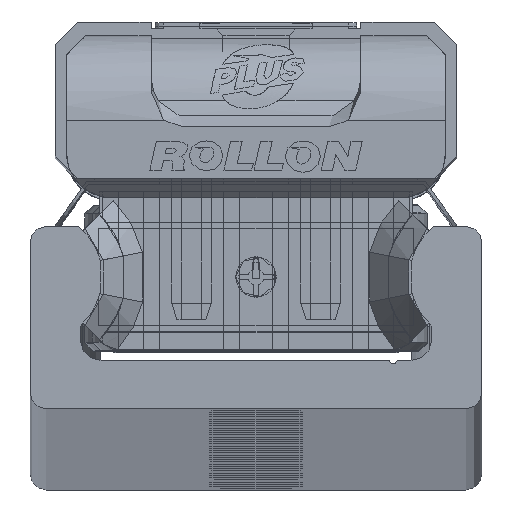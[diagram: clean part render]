
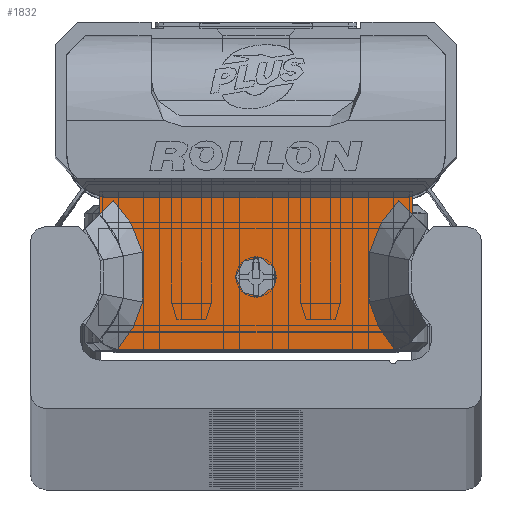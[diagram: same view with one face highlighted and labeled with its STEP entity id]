
A CAD part, top view. The second image highlights one B-rep face of the part: STEP entity #1832.
In plain terms, the highlighted planar face has unit normal (0, 0, 1) as drawn and (0, 0, -1) by its records, which use the part's own axes.
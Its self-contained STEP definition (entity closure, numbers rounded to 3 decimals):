
#1832 = ADVANCED_FACE( '', ( #4021, #4022 ), #4023, .F. );
#4021 = FACE_BOUND( '', #6541, .T. );
#4022 = FACE_OUTER_BOUND( '', #6542, .T. );
#4023 = PLANE( '', #6543 );
#6541 = EDGE_LOOP( '', ( #11531 ) );
#6542 = EDGE_LOOP( '', ( #11532, #11533, #11534, #11535, #11536, #11537, #11538, #11539, #11540, #11541, #11542, #11543, #11544, #11545 ) );
#6543 = AXIS2_PLACEMENT_3D( '', #11546, #11547, #11548 );
#11531 = ORIENTED_EDGE( '', *, *, #15198, .T. );
#11532 = ORIENTED_EDGE( '', *, *, #13640, .F. );
#11533 = ORIENTED_EDGE( '', *, *, #15199, .T. );
#11534 = ORIENTED_EDGE( '', *, *, #14023, .T. );
#11535 = ORIENTED_EDGE( '', *, *, #15200, .T. );
#11536 = ORIENTED_EDGE( '', *, *, #13447, .T. );
#11537 = ORIENTED_EDGE( '', *, *, #15076, .T. );
#11538 = ORIENTED_EDGE( '', *, *, #13209, .T. );
#11539 = ORIENTED_EDGE( '', *, *, #15110, .T. );
#11540 = ORIENTED_EDGE( '', *, *, #15201, .T. );
#11541 = ORIENTED_EDGE( '', *, *, #14173, .T. );
#11542 = ORIENTED_EDGE( '', *, *, #13949, .T. );
#11543 = ORIENTED_EDGE( '', *, *, #14848, .T. );
#11544 = ORIENTED_EDGE( '', *, *, #14025, .T. );
#11545 = ORIENTED_EDGE( '', *, *, #14010, .T. );
#11546 = CARTESIAN_POINT( '', ( 9.7, 4.89, -10.6 ) );
#11547 = DIRECTION( '', ( 0., 0., 1. ) );
#11548 = DIRECTION( '', ( 1., 0., 0. ) );
#13209 = EDGE_CURVE( '', #15522, #15523, #15524, .T. );
#13447 = EDGE_CURVE( '', #15959, #15960, #15961, .T. );
#13640 = EDGE_CURVE( '', #16315, #16317, #16318, .T. );
#13949 = EDGE_CURVE( '', #16658, #16824, #16826, .T. );
#14010 = EDGE_CURVE( '', #16925, #16317, #16926, .T. );
#14023 = EDGE_CURVE( '', #16939, #16943, #16945, .T. );
#14025 = EDGE_CURVE( '', #16947, #16925, #16948, .T. );
#14173 = EDGE_CURVE( '', #17166, #16658, #17179, .T. );
#14848 = EDGE_CURVE( '', #16824, #16947, #18163, .T. );
#15076 = EDGE_CURVE( '', #15960, #15522, #18463, .T. );
#15110 = EDGE_CURVE( '', #15523, #18502, #18504, .T. );
#15198 = EDGE_CURVE( '', #18609, #18609, #18610, .T. );
#15199 = EDGE_CURVE( '', #16315, #16939, #18611, .T. );
#15200 = EDGE_CURVE( '', #16943, #15959, #18612, .T. );
#15201 = EDGE_CURVE( '', #18502, #17166, #18613, .T. );
#15522 = VERTEX_POINT( '', #18968 );
#15523 = VERTEX_POINT( '', #18969 );
#15524 = B_SPLINE_CURVE_WITH_KNOTS( '', 2, ( #18970, #18971, #18972, #18973, #18974 ), .UNSPECIFIED., .F., .F., ( 3, 2, 3 ), ( 0., 0.5, 1. ), .UNSPECIFIED. );
#15959 = VERTEX_POINT( '', #19608 );
#15960 = VERTEX_POINT( '', #19609 );
#15961 = LINE( '', #19610, #19611 );
#16315 = VERTEX_POINT( '', #20146 );
#16317 = VERTEX_POINT( '', #20149 );
#16318 = LINE( '', #20150, #20151 );
#16658 = VERTEX_POINT( '', #20692 );
#16824 = VERTEX_POINT( '', #20928 );
#16826 = B_SPLINE_CURVE_WITH_KNOTS( '', 2, ( #20931, #20932, #20933 ), .UNSPECIFIED., .F., .F., ( 3, 3 ), ( 0.1, 1. ), .UNSPECIFIED. );
#16925 = VERTEX_POINT( '', #21055 );
#16926 = LINE( '', #21056, #21057 );
#16939 = VERTEX_POINT( '', #21075 );
#16943 = VERTEX_POINT( '', #21081 );
#16945 = LINE( '', #21084, #21085 );
#16947 = VERTEX_POINT( '', #21087 );
#16948 = B_SPLINE_CURVE_WITH_KNOTS( '', 2, ( #21088, #21089, #21090 ), .UNSPECIFIED., .F., .F., ( 3, 3 ), ( 0., 1. ), .UNSPECIFIED. );
#17166 = VERTEX_POINT( '', #21438 );
#17179 = LINE( '', #21457, #21458 );
#18163 = B_SPLINE_CURVE_WITH_KNOTS( '', 2, ( #22764, #22765, #22766 ), .UNSPECIFIED., .F., .F., ( 3, 3 ), ( 0., 1. ), .UNSPECIFIED. );
#18463 = LINE( '', #23172, #23173 );
#18502 = VERTEX_POINT( '', #23221 );
#18504 = B_SPLINE_CURVE_WITH_KNOTS( '', 2, ( #23224, #23225, #23226 ), .UNSPECIFIED., .F., .F., ( 3, 3 ), ( 0., 1. ), .UNSPECIFIED. );
#18609 = VERTEX_POINT( '', #23375 );
#18610 = CIRCLE( '', #23376, 1.25 );
#18611 = CIRCLE( '', #23377, 2.8 );
#18612 = CIRCLE( '', #23378, 2.8 );
#18613 = B_SPLINE_CURVE_WITH_KNOTS( '', 2, ( #23379, #23380, #23381 ), .UNSPECIFIED., .F., .F., ( 3, 3 ), ( 0., 1. ), .UNSPECIFIED. );
#18968 = CARTESIAN_POINT( '', ( 8.853, 4.366, -10.6 ) );
#18969 = CARTESIAN_POINT( '', ( 7.031, 1.144, -10.6 ) );
#18970 = CARTESIAN_POINT( '', ( 8.853, 4.366, -10.6 ) );
#18971 = CARTESIAN_POINT( '', ( 8.182, 3.708, -10.6 ) );
#18972 = CARTESIAN_POINT( '', ( 7.715, 2.883, -10.6 ) );
#18973 = CARTESIAN_POINT( '', ( 7.249, 2.058, -10.6 ) );
#18974 = CARTESIAN_POINT( '', ( 7.031, 1.144, -10.6 ) );
#19608 = CARTESIAN_POINT( '', ( 9.7, 4.612, -10.6 ) );
#19609 = CARTESIAN_POINT( '', ( 9.7, 3.497, -10.6 ) );
#19610 = CARTESIAN_POINT( '', ( 9.7, 4.89, -10.6 ) );
#19611 = VECTOR( '', #24084, 1000. );
#20146 = CARTESIAN_POINT( '', ( -9.7, 4.612, -10.6 ) );
#20149 = CARTESIAN_POINT( '', ( -9.7, 3.494, -10.6 ) );
#20150 = CARTESIAN_POINT( '', ( -9.7, 4.89, -10.6 ) );
#20151 = VECTOR( '', #24461, 1000. );
#20692 = CARTESIAN_POINT( '', ( -8.59, -4.893, -10.6 ) );
#20928 = CARTESIAN_POINT( '', ( -7.031, -1.944, -10.6 ) );
#20931 = CARTESIAN_POINT( '', ( -8.587, -4.89, -10.6 ) );
#20932 = CARTESIAN_POINT( '', ( -7.432, -3.63, -10.6 ) );
#20933 = CARTESIAN_POINT( '', ( -7.031, -1.944, -10.6 ) );
#21055 = CARTESIAN_POINT( '', ( -8.853, 4.366, -10.6 ) );
#21056 = CARTESIAN_POINT( '', ( -8.853, 4.366, -10.6 ) );
#21057 = VECTOR( '', #24911, 1000. );
#21075 = CARTESIAN_POINT( '', ( -8.95, 4.51, -10.6 ) );
#21081 = CARTESIAN_POINT( '', ( 8.95, 4.51, -10.6 ) );
#21084 = CARTESIAN_POINT( '', ( 9.7, 4.51, -10.6 ) );
#21085 = VECTOR( '', #24922, 1000. );
#21087 = CARTESIAN_POINT( '', ( -7.031, 1.144, -10.6 ) );
#21088 = CARTESIAN_POINT( '', ( -7.031, 1.144, -10.6 ) );
#21089 = CARTESIAN_POINT( '', ( -7.477, 3.018, -10.6 ) );
#21090 = CARTESIAN_POINT( '', ( -8.853, 4.366, -10.6 ) );
#21438 = CARTESIAN_POINT( '', ( 8.59, -4.893, -10.6 ) );
#21457 = CARTESIAN_POINT( '', ( 9.7, -4.89, -10.6 ) );
#21458 = VECTOR( '', #25117, 1000. );
#22764 = CARTESIAN_POINT( '', ( -7.031, -1.944, -10.6 ) );
#22765 = CARTESIAN_POINT( '', ( -6.929, -0.4, -10.6 ) );
#22766 = CARTESIAN_POINT( '', ( -7.031, 1.144, -10.6 ) );
#23172 = CARTESIAN_POINT( '', ( 9.7, 3.501, -10.6 ) );
#23173 = VECTOR( '', #26325, 1000. );
#23221 = CARTESIAN_POINT( '', ( 7.031, -1.944, -10.6 ) );
#23224 = CARTESIAN_POINT( '', ( 7.031, 1.144, -10.6 ) );
#23225 = CARTESIAN_POINT( '', ( 6.929, -0.4, -10.6 ) );
#23226 = CARTESIAN_POINT( '', ( 7.031, -1.944, -10.6 ) );
#23375 = CARTESIAN_POINT( '', ( 1.25, -0.39, -10.6 ) );
#23376 = AXIS2_PLACEMENT_3D( '', #26441, #26442, #26443 );
#23377 = AXIS2_PLACEMENT_3D( '', #26444, #26445, #26446 );
#23378 = AXIS2_PLACEMENT_3D( '', #26447, #26448, #26449 );
#23379 = CARTESIAN_POINT( '', ( 7.031, -1.944, -10.6 ) );
#23380 = CARTESIAN_POINT( '', ( 7.429, -3.615, -10.6 ) );
#23381 = CARTESIAN_POINT( '', ( 8.588, -4.89, -10.6 ) );
#24084 = DIRECTION( '', ( 0., -1., 0. ) );
#24461 = DIRECTION( '', ( 0., -1., 0. ) );
#24911 = DIRECTION( '', ( -0.7, -0.714, 0. ) );
#24922 = DIRECTION( '', ( 1., 0., 0. ) );
#25117 = DIRECTION( '', ( -1., 0., 0. ) );
#26325 = DIRECTION( '', ( -0.7, 0.714, 0. ) );
#26441 = CARTESIAN_POINT( '', ( 0., -0.39, -10.6 ) );
#26442 = DIRECTION( '', ( 0., 0., 1. ) );
#26443 = DIRECTION( '', ( 1., 0., 0. ) );
#26444 = CARTESIAN_POINT( '', ( -8.95, 7.31, -10.6 ) );
#26445 = DIRECTION( '', ( 0., 0., 1. ) );
#26446 = DIRECTION( '', ( 1., 0., 0. ) );
#26447 = CARTESIAN_POINT( '', ( 8.95, 7.31, -10.6 ) );
#26448 = DIRECTION( '', ( 0., 0., 1. ) );
#26449 = DIRECTION( '', ( 1., 0., 0. ) );
